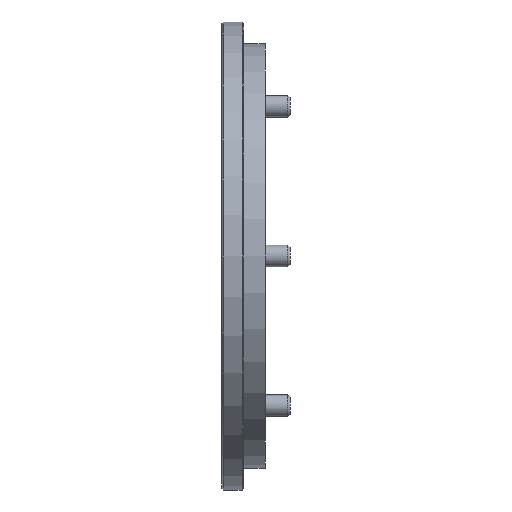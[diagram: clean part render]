
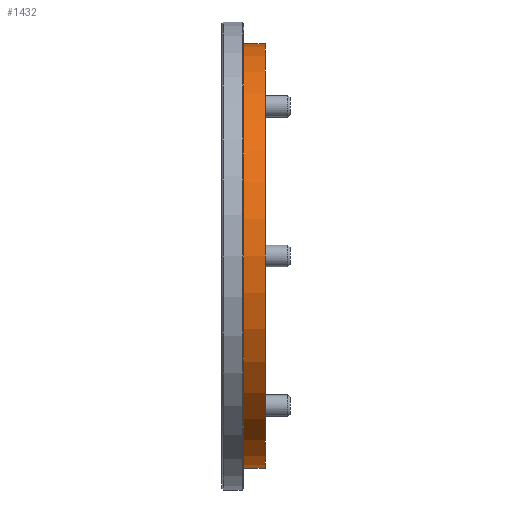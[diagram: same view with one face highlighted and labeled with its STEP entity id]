
A CAD part, front view. The second image highlights one B-rep face of the part: STEP entity #1432.
In plain terms, the highlighted cylindrical face has radius 29.5 mm (diameter 59 mm), a partial arc.
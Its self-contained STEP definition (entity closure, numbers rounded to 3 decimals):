
#94 = EDGE_CURVE ( 'NONE', #206, #2217, #946, .T. ) ;
#176 = CIRCLE ( 'NONE', #1152, 29.5 ) ;
#180 = CARTESIAN_POINT ( 'NONE',  ( 6., 0., 29.5 ) ) ;
#200 = ORIENTED_EDGE ( 'NONE', *, *, #1656, .T. ) ;
#206 = VERTEX_POINT ( 'NONE', #1578 ) ;
#211 = AXIS2_PLACEMENT_3D ( 'NONE', #396, #2419, #347 ) ;
#227 = EDGE_CURVE ( 'NONE', #697, #939, #546, .T. ) ;
#347 = DIRECTION ( 'NONE',  ( 0., 0., 1. ) ) ;
#396 = CARTESIAN_POINT ( 'NONE',  ( 3., 0., 0. ) ) ;
#546 = LINE ( 'NONE', #1551, #2006 ) ;
#670 = FACE_OUTER_BOUND ( 'NONE', #2551, .T. ) ;
#697 = VERTEX_POINT ( 'NONE', #180 ) ;
#699 = CARTESIAN_POINT ( 'NONE',  ( 3., 0., -29.5 ) ) ;
#939 = VERTEX_POINT ( 'NONE', #2054 ) ;
#946 = LINE ( 'NONE', #1351, #1421 ) ;
#1079 = AXIS2_PLACEMENT_3D ( 'NONE', #2360, #2316, #2328 ) ;
#1152 = AXIS2_PLACEMENT_3D ( 'NONE', #2033, #2032, #2030 ) ;
#1207 = EDGE_CURVE ( 'NONE', #2217, #939, #1807, .T. ) ;
#1307 = DIRECTION ( 'NONE',  ( -1., 0., 0. ) ) ;
#1351 = CARTESIAN_POINT ( 'NONE',  ( 0., 0., -29.5 ) ) ;
#1421 = VECTOR ( 'NONE', #1307, 1000. ) ;
#1432 = ADVANCED_FACE ( 'NONE', ( #670 ), #2138, .T. ) ;
#1536 = DIRECTION ( 'NONE',  ( -1., 0., 0. ) ) ;
#1551 = CARTESIAN_POINT ( 'NONE',  ( 0., 0., 29.5 ) ) ;
#1578 = CARTESIAN_POINT ( 'NONE',  ( 6., 0., -29.5 ) ) ;
#1655 = ORIENTED_EDGE ( 'NONE', *, *, #1207, .F. ) ;
#1656 = EDGE_CURVE ( 'NONE', #206, #697, #176, .T. ) ;
#1807 = CIRCLE ( 'NONE', #211, 29.5 ) ;
#1919 = ORIENTED_EDGE ( 'NONE', *, *, #227, .T. ) ;
#2006 = VECTOR ( 'NONE', #1536, 1000. ) ;
#2030 = DIRECTION ( 'NONE',  ( 0., 0., 1. ) ) ;
#2032 = DIRECTION ( 'NONE',  ( -1., 0., 0. ) ) ;
#2033 = CARTESIAN_POINT ( 'NONE',  ( 6., 0., 0. ) ) ;
#2054 = CARTESIAN_POINT ( 'NONE',  ( 3., 0., 29.5 ) ) ;
#2138 = CYLINDRICAL_SURFACE ( 'NONE', #1079, 29.5 ) ;
#2217 = VERTEX_POINT ( 'NONE', #699 ) ;
#2316 = DIRECTION ( 'NONE',  ( -1., 0., 0. ) ) ;
#2328 = DIRECTION ( 'NONE',  ( 0., 0., 1. ) ) ;
#2360 = CARTESIAN_POINT ( 'NONE',  ( 0., 0., 0. ) ) ;
#2419 = DIRECTION ( 'NONE',  ( -1., 0., 0. ) ) ;
#2551 = EDGE_LOOP ( 'NONE', ( #2670, #200, #1919, #1655 ) ) ;
#2670 = ORIENTED_EDGE ( 'NONE', *, *, #94, .F. ) ;
